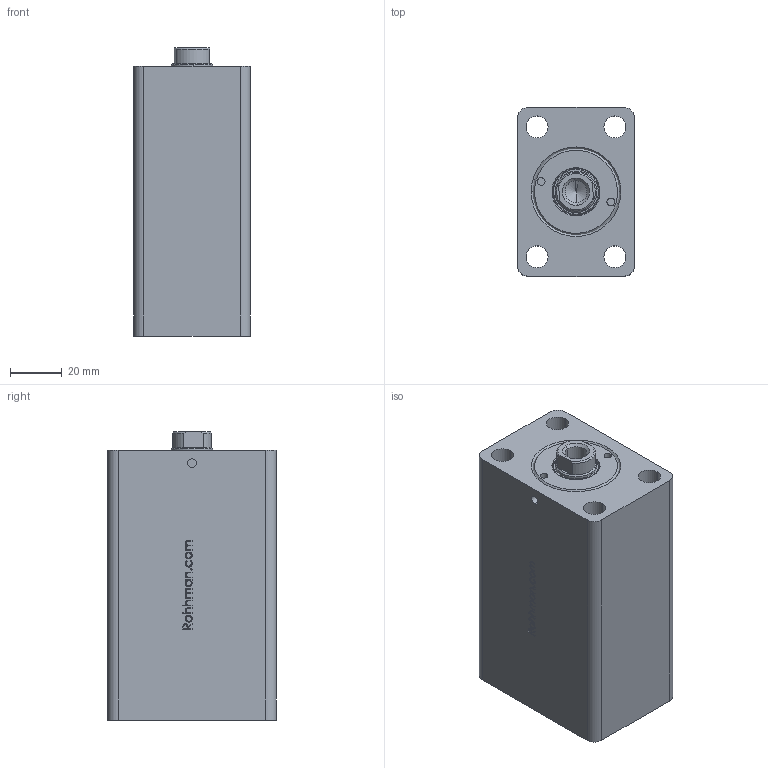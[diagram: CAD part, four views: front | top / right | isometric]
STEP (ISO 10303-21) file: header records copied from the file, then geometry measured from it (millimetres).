
FILE_DESCRIPTION (( 'STEP AP214' ), '1' );
FILE_NAME ('KBZ_02_25_16_60.STEP', '2022-09-03T18:05:49', ( '' ), ( '' ), 'SwSTEP 2.0', 'SolidWorks 2021', '' );
FILE_SCHEMA (( 'AUTOMOTIVE_DESIGN' ));
Length unit declared in the file: millimetre
Products named in the file (9): KBZ_03_25_16_烰_KAPAK; 16_K_MIL_WEB; KBZ_02_25_16_60; K22-16X20_5X5; K06-16X22_8X3_1X4 (K016_3); KBZ_03_25_16_ON_KAPAK; KBZ_02_25_25_GOVDE_WEB; KO-22X2_5; 16_18_PAP_16_18_5_PAP
Assembly tree (8 placements, depth 3):
  KBZ_02_25_16_60
    KBZ_02_25_25_GOVDE_WEB
    16_K_MIL_WEB
    KBZ_03_25_16_烰_KAPAK
      KBZ_03_25_16_ON_KAPAK
      K22-16X20_5X5
      K06-16X22_8X3_1X4 (K016_3)
      KO-22X2_5
      16_18_PAP_16_18_5_PAP
Bounding box: 45 x 65 x 111 mm (x, y, z)
Volume: 258750.7 mm3; surface area: 57403.4 mm2
Topology: 7 solids, 7 shells, 387 faces, 920 edges, 580 vertices
Faces by surface type: bspline 130, plane 117, cylinder 79, cone 53, torus 8
Entity records: 16653 total; most frequent: CARTESIAN_POINT 8020, ORIENTED_EDGE 1836, DIRECTION 1410, EDGE_CURVE 918, VERTEX_POINT 580, AXIS2_PLACEMENT_3D 494, EDGE_LOOP 444, LINE 422
